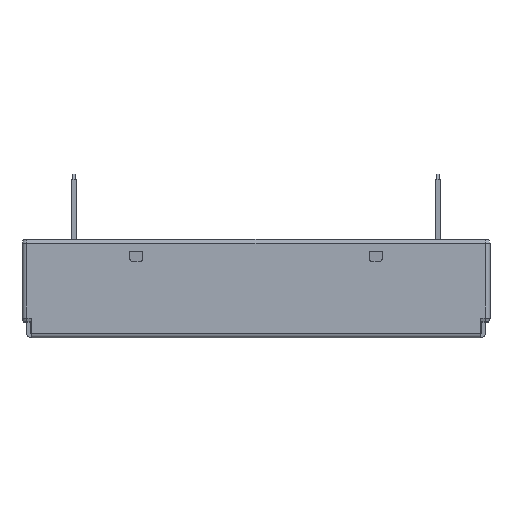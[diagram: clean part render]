
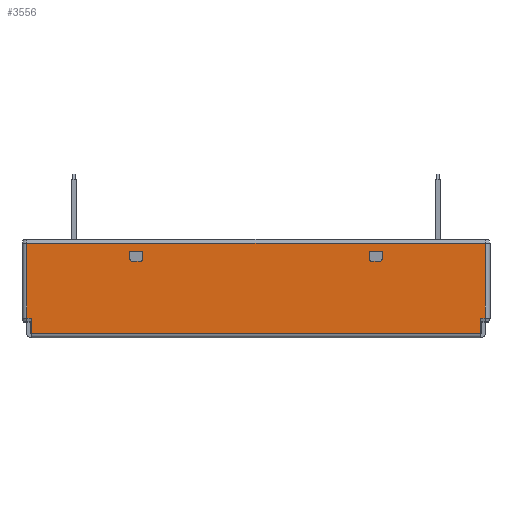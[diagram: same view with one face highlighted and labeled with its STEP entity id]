
A CAD part, front view. The second image highlights one B-rep face of the part: STEP entity #3556.
In plain terms, the highlighted planar face has unit normal (0, -1, 0).
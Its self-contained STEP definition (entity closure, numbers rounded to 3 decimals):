
#134=FACE_BOUND('',#686,.T.);
#135=FACE_BOUND('',#687,.T.);
#160=CIRCLE('',#3680,0.5);
#162=CIRCLE('',#3685,0.5);
#226=CIRCLE('',#3831,0.5);
#227=CIRCLE('',#3835,0.5);
#466=FACE_OUTER_BOUND('',#685,.T.);
#685=EDGE_LOOP('',(#3049,#3050,#3051,#3052,#3053,#3054,#3055,#3056));
#686=EDGE_LOOP('',(#3057,#3058,#3059,#3060,#3061,#3062));
#687=EDGE_LOOP('',(#3063,#3064,#3065,#3066,#3067,#3068));
#833=LINE('',#5337,#1175);
#834=LINE('',#5340,#1176);
#842=LINE('',#5361,#1184);
#844=LINE('',#5365,#1186);
#854=LINE('',#5421,#1196);
#896=LINE('',#5580,#1238);
#928=LINE('',#5671,#1270);
#933=LINE('',#5684,#1275);
#959=LINE('',#5750,#1301);
#963=LINE('',#5761,#1305);
#969=LINE('',#5777,#1311);
#970=LINE('',#5780,#1312);
#982=LINE('',#5839,#1324);
#994=LINE('',#5870,#1336);
#1028=LINE('',#6007,#1370);
#1029=LINE('',#6009,#1371);
#1175=VECTOR('',#4246,10.);
#1176=VECTOR('',#4249,10.);
#1184=VECTOR('',#4273,10.);
#1186=VECTOR('',#4279,10.);
#1196=VECTOR('',#4341,10.);
#1238=VECTOR('',#4495,10.);
#1270=VECTOR('',#4599,10.);
#1275=VECTOR('',#4612,10.);
#1301=VECTOR('',#4670,10.);
#1305=VECTOR('',#4680,10.);
#1311=VECTOR('',#4700,10.);
#1312=VECTOR('',#4705,10.);
#1324=VECTOR('',#4771,10.);
#1336=VECTOR('',#4807,10.);
#1370=VECTOR('',#4939,10.);
#1371=VECTOR('',#4942,10.);
#1484=VERTEX_POINT('',#5326);
#1489=VERTEX_POINT('',#5335);
#1490=VERTEX_POINT('',#5339);
#1491=VERTEX_POINT('',#5343);
#1494=VERTEX_POINT('',#5355);
#1495=VERTEX_POINT('',#5357);
#1514=VERTEX_POINT('',#5418);
#1515=VERTEX_POINT('',#5420);
#1522=VERTEX_POINT('',#5448);
#1581=VERTEX_POINT('',#5669);
#1585=VERTEX_POINT('',#5682);
#1607=VERTEX_POINT('',#5746);
#1609=VERTEX_POINT('',#5749);
#1613=VERTEX_POINT('',#5759);
#1614=VERTEX_POINT('',#5763);
#1615=VERTEX_POINT('',#5771);
#1616=VERTEX_POINT('',#5773);
#1635=VERTEX_POINT('',#5836);
#1636=VERTEX_POINT('',#5838);
#1643=VERTEX_POINT('',#5866);
#1840=EDGE_CURVE('',#1489,#1484,#833,.T.);
#1841=EDGE_CURVE('',#1484,#1490,#834,.T.);
#1843=EDGE_CURVE('',#1490,#1491,#160,.T.);
#1850=EDGE_CURVE('',#1494,#1495,#162,.T.);
#1852=EDGE_CURVE('',#1495,#1489,#842,.T.);
#1854=EDGE_CURVE('',#1491,#1494,#844,.T.);
#1881=EDGE_CURVE('',#1515,#1514,#854,.T.);
#1953=EDGE_CURVE('',#1522,#1515,#896,.T.);
#1999=EDGE_CURVE('',#1581,#1514,#928,.T.);
#2006=EDGE_CURVE('',#1581,#1585,#933,.T.);
#2038=EDGE_CURVE('',#1609,#1607,#959,.T.);
#2044=EDGE_CURVE('',#1607,#1613,#963,.T.);
#2046=EDGE_CURVE('',#1613,#1614,#226,.T.);
#2050=EDGE_CURVE('',#1616,#1615,#227,.T.);
#2052=EDGE_CURVE('',#1615,#1609,#969,.T.);
#2053=EDGE_CURVE('',#1614,#1616,#970,.T.);
#2082=EDGE_CURVE('',#1635,#1636,#982,.T.);
#2098=EDGE_CURVE('',#1522,#1643,#994,.T.);
#2160=EDGE_CURVE('',#1643,#1635,#1028,.T.);
#2161=EDGE_CURVE('',#1585,#1636,#1029,.T.);
#3049=ORIENTED_EDGE('',*,*,#2006,.T.);
#3050=ORIENTED_EDGE('',*,*,#2161,.T.);
#3051=ORIENTED_EDGE('',*,*,#2082,.F.);
#3052=ORIENTED_EDGE('',*,*,#2160,.F.);
#3053=ORIENTED_EDGE('',*,*,#2098,.F.);
#3054=ORIENTED_EDGE('',*,*,#1953,.T.);
#3055=ORIENTED_EDGE('',*,*,#1881,.T.);
#3056=ORIENTED_EDGE('',*,*,#1999,.F.);
#3057=ORIENTED_EDGE('',*,*,#1841,.F.);
#3058=ORIENTED_EDGE('',*,*,#1840,.F.);
#3059=ORIENTED_EDGE('',*,*,#1852,.F.);
#3060=ORIENTED_EDGE('',*,*,#1850,.F.);
#3061=ORIENTED_EDGE('',*,*,#1854,.F.);
#3062=ORIENTED_EDGE('',*,*,#1843,.F.);
#3063=ORIENTED_EDGE('',*,*,#2044,.T.);
#3064=ORIENTED_EDGE('',*,*,#2046,.T.);
#3065=ORIENTED_EDGE('',*,*,#2053,.T.);
#3066=ORIENTED_EDGE('',*,*,#2050,.T.);
#3067=ORIENTED_EDGE('',*,*,#2052,.T.);
#3068=ORIENTED_EDGE('',*,*,#2038,.T.);
#3314=PLANE('',#3927);
#3556=ADVANCED_FACE('',(#466,#134,#135),#3314,.T.);
#3680=AXIS2_PLACEMENT_3D('',#5344,#4253,#4254);
#3685=AXIS2_PLACEMENT_3D('',#5358,#4268,#4269);
#3831=AXIS2_PLACEMENT_3D('',#5765,#4684,#4685);
#3835=AXIS2_PLACEMENT_3D('',#5774,#4695,#4696);
#3927=AXIS2_PLACEMENT_3D('',#6008,#4940,#4941);
#4246=DIRECTION('',(-1.,0.,0.));
#4249=DIRECTION('',(0.,0.,-1.));
#4253=DIRECTION('center_axis',(0.,-1.,0.));
#4254=DIRECTION('ref_axis',(-1.,0.,0.));
#4268=DIRECTION('center_axis',(0.,-1.,0.));
#4269=DIRECTION('ref_axis',(0.,0.,-1.));
#4273=DIRECTION('',(0.,0.,1.));
#4279=DIRECTION('',(1.,0.,0.));
#4341=DIRECTION('',(1.,0.,0.));
#4495=DIRECTION('',(0.,0.,-1.));
#4599=DIRECTION('',(0.,0.,1.));
#4612=DIRECTION('',(1.,0.,0.));
#4670=DIRECTION('',(1.,0.,0.));
#4680=DIRECTION('',(0.,0.,-1.));
#4684=DIRECTION('center_axis',(0.,1.,0.));
#4685=DIRECTION('ref_axis',(1.,0.,0.));
#4695=DIRECTION('center_axis',(0.,1.,0.));
#4696=DIRECTION('ref_axis',(0.,0.,-1.));
#4700=DIRECTION('',(0.,0.,1.));
#4705=DIRECTION('',(-1.,0.,0.));
#4771=DIRECTION('',(-1.,0.,0.));
#4807=DIRECTION('',(1.,0.,0.));
#4939=DIRECTION('',(0.,0.,-1.));
#4940=DIRECTION('center_axis',(0.,-1.,0.));
#4941=DIRECTION('ref_axis',(1.,0.,0.));
#4942=DIRECTION('',(0.,0.,1.));
#5326=CARTESIAN_POINT('',(-24.25,-9.5,16.7));
#5335=CARTESIAN_POINT('',(-21.75,-9.5,16.7));
#5337=CARTESIAN_POINT('',(9.925,-9.5,16.7));
#5339=CARTESIAN_POINT('',(-24.25,-9.5,15.2));
#5340=CARTESIAN_POINT('',(-24.25,-9.5,7.6));
#5343=CARTESIAN_POINT('',(-23.75,-9.5,14.7));
#5344=CARTESIAN_POINT('Origin',(-23.75,-9.5,15.2));
#5355=CARTESIAN_POINT('',(-22.25,-9.5,14.7));
#5357=CARTESIAN_POINT('',(-21.75,-9.5,15.2));
#5358=CARTESIAN_POINT('Origin',(-22.25,-9.5,15.2));
#5361=CARTESIAN_POINT('',(-21.75,-9.5,8.35));
#5365=CARTESIAN_POINT('',(10.925,-9.5,14.7));
#5418=CARTESIAN_POINT('',(-43.2,-9.5,3.8));
#5420=CARTESIAN_POINT('',(-44.1,-9.5,3.8));
#5421=CARTESIAN_POINT('',(0.,-9.5,3.8));
#5448=CARTESIAN_POINT('',(-44.1,-9.5,18.2));
#5580=CARTESIAN_POINT('',(-44.1,-9.5,0.));
#5669=CARTESIAN_POINT('',(-43.2,-9.5,0.9));
#5671=CARTESIAN_POINT('',(-43.2,-9.5,0.));
#5682=CARTESIAN_POINT('',(43.2,-9.5,0.9));
#5684=CARTESIAN_POINT('',(22.05,-9.5,0.9));
#5746=CARTESIAN_POINT('',(24.25,-9.5,16.7));
#5749=CARTESIAN_POINT('',(21.75,-9.5,16.7));
#5750=CARTESIAN_POINT('',(-9.925,-9.5,16.7));
#5759=CARTESIAN_POINT('',(24.25,-9.5,15.2));
#5761=CARTESIAN_POINT('',(24.25,-9.5,7.6));
#5763=CARTESIAN_POINT('',(23.75,-9.5,14.7));
#5765=CARTESIAN_POINT('Origin',(23.75,-9.5,15.2));
#5771=CARTESIAN_POINT('',(21.75,-9.5,15.2));
#5773=CARTESIAN_POINT('',(22.25,-9.5,14.7));
#5774=CARTESIAN_POINT('Origin',(22.25,-9.5,15.2));
#5777=CARTESIAN_POINT('',(21.75,-9.5,8.35));
#5780=CARTESIAN_POINT('',(-10.925,-9.5,14.7));
#5836=CARTESIAN_POINT('',(44.1,-9.5,3.8));
#5838=CARTESIAN_POINT('',(43.2,-9.5,3.8));
#5839=CARTESIAN_POINT('',(0.,-9.5,3.8));
#5866=CARTESIAN_POINT('',(44.1,-9.5,18.2));
#5870=CARTESIAN_POINT('',(-22.05,-9.5,18.2));
#6007=CARTESIAN_POINT('',(44.1,-9.5,0.));
#6008=CARTESIAN_POINT('Origin',(-44.1,-9.5,0.));
#6009=CARTESIAN_POINT('',(43.2,-9.5,0.));
